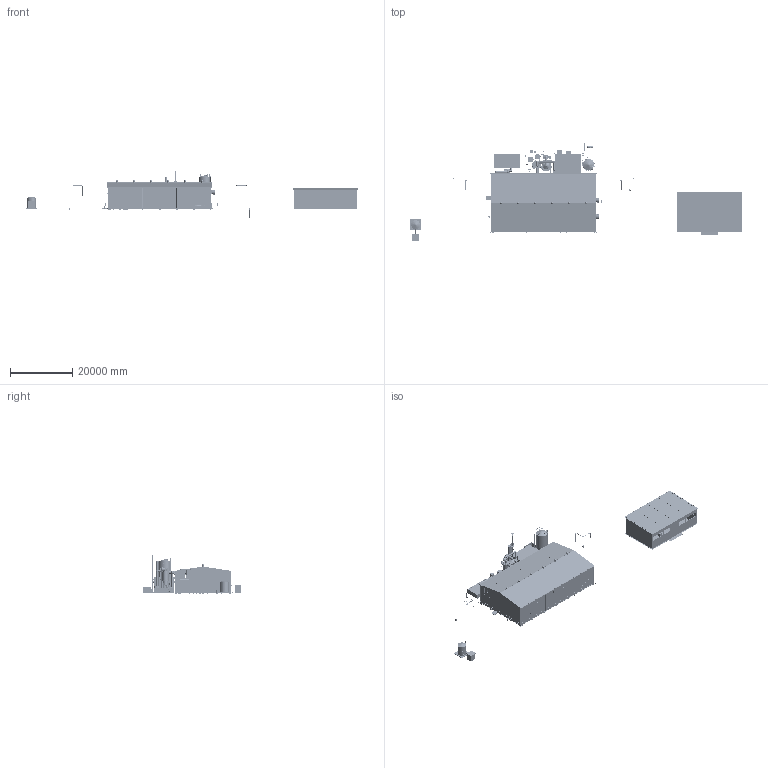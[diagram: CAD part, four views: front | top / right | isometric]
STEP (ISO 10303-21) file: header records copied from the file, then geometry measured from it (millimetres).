
FILE_DESCRIPTION(('Open CASCADE Model'),'2;1');
FILE_NAME('Open CASCADE Shape Model','2026-11-20T01:15:15',('Author'),( 'Open CASCADE'),'Open CASCADE STEP processor 7.9','Open CASCADE 7.9' ,'Unknown');
FILE_SCHEMA(('AUTOMOTIVE_DESIGN { 1 0 10303 214 1 1 1 1 }'));
Length unit declared in the file: millimetre
Products named in the file (1010): Granja_integrada_Planta_central; Nave_de_proceso_-_estructura; NAVE_1; NAVE_2; NAVE_3; NAVE_4; NAVE_5; NAVE_6; NAVE_7; NAVE_8; NAVE_9; NAVE_10; NAVE_11; P1_1; P1_2; P1_3; P1_4; Anclaje_quÃ­mico_1; P1_5; P1_9; P1_10; P1_21; P1_23; P1_24; P1_25; P1_26; P1_27; P1_28; P1_29; P1_30; P1_31; P1_32; P1_33; P1_34; P1_35; NAVE_12; HASTIAL_1; HASTIAL_2; HASTIAL_3; HASTIAL_4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
Assembly tree (2878 placements, depth 4):
  Granja_integrada_Planta_central
    Nave_de_proceso_-_estructura
      NAVE_1
      NAVE_2
      NAVE_3
      NAVE_4
      NAVE_5
      NAVE_6
      NAVE_7
      NAVE_8
      NAVE_9
      NAVE_10
      NAVE_11
      P1_1  x14
      P1_2  x14
      P1_3  x14
      P1_4  x14
      Anclaje_quÃ­mico_1  x56
      P1_5  x56
      P1_9  x14
      P1_10  x14
      P1_21  x14
      P1_23  x7
      P1_24  x14
      P1_25  x14
      P1_26  x14
      P1_27  x14
      P1_28  x14
      P1_29  x14
      P1_30  x14
      P1_31  x14
      P1_32  x14
      P1_33  x14
      P1_34  x14
      P1_35  x7
      NAVE_12  x2
      HASTIAL_1  x7
      HASTIAL_2  x7
      HASTIAL_3  x7
      HASTIAL_4
      Anclaje_quÃ­mico_57  x28
      HASTIAL_5  x28
      HASTIAL_12
      HASTIAL_20
      HASTIAL_28
      HASTIAL_36
      HASTIAL_44
      HASTIAL_52
      NAVE_14  x16
      NAVE_30  x8
      NAVE_38  x8
      NAVE_46
      NAVE_47
      NAVE_48  x2
      NAVE_49
      NAVE_51  x2
      NAVE_52  x4
      NAVE_53  x9
      NAVE_59  x2
      NAVE_61
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Bounding box: 106900 x 31570 x 16700 mm (x, y, z)
Volume: 669131202815.9 mm3; surface area: 12823334258.5 mm2
Topology: 6683 solids, 11122 shells, 57152 faces, 115945 edges, 72898 vertices
Faces by surface type: plane 47972, bspline 6750, cylinder 2281, sphere 111, cone 29, torus 9
Full cylindrical faces by diameter (mm): 6 x13, 8 x6, 10 x18, 12 x99, 16 x112, 18 x107, 19 x27, 20 x65, 22.4 x11, 24 x152, 25 x30, 25.2 x12, 28 x19, 28.5 x8, 30 x81, 32 x4, 33.6 x32, 33.7 x8, 34 x1, 36 x24, 37 x66, 40 x23, 41.9 x161, 42 x54, 42.2 x66, 44 x4, 48 x2, 48.3 x161, 50 x29, 50.4 x56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
Entity records: 1136922 total; most frequent: CARTESIAN_POINT 218208, ORIENTED_EDGE 169331, DIRECTION 158523, EDGE_CURVE 86833, LINE 74259, VECTOR 74259, VERTEX_POINT 53325, FACE_BOUND 44340
